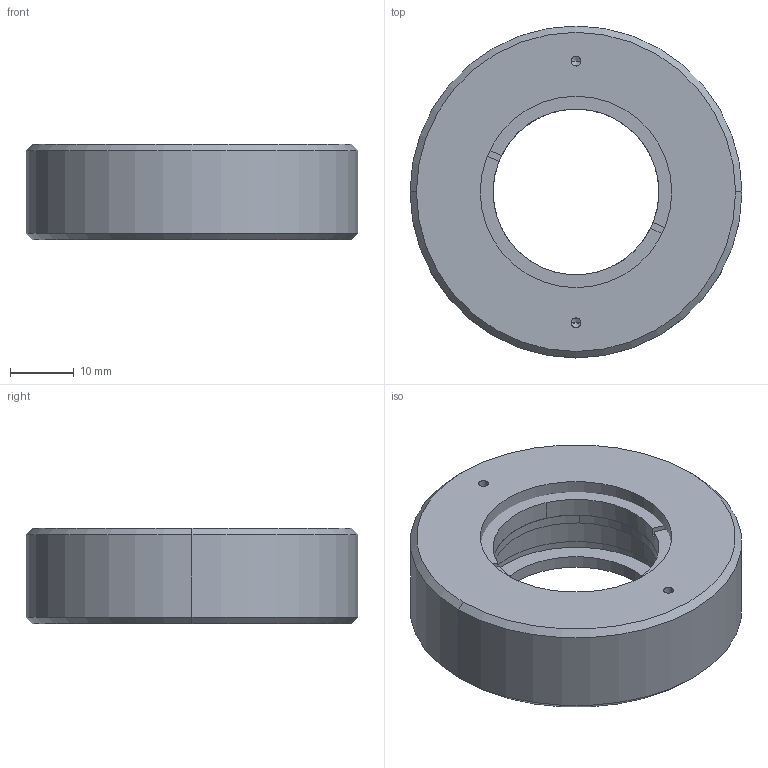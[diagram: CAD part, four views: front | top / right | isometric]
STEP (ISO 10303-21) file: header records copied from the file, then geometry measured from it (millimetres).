
FILE_DESCRIPTION (( 'STEP AP203' ), '1' );
FILE_NAME ('ACOA30-1.STEP', '2022-07-22T08:49:38', ( '' ), ( '' ), 'SwSTEP 2.0', 'SolidWorks 2021', '' );
FILE_SCHEMA (( 'CONFIG_CONTROL_DESIGN' ));
Length unit declared in the file: millimetre
Products named in the file (1): ACOA30-1
Bounding box: 52 x 52 x 15 mm (x, y, z)
Volume: 22267.4 mm3; surface area: 8553.4 mm2
Topology: 3 solids, 3 shells, 225 faces, 609 edges, 399 vertices
Faces by surface type: plane 188, cylinder 20, cone 17
Entity records: 7025 total; most frequent: CARTESIAN_POINT 1242, ORIENTED_EDGE 1210, DIRECTION 1114, EDGE_CURVE 605, LINE 540, VECTOR 540, VERTEX_POINT 399, AXIS2_PLACEMENT_3D 287
